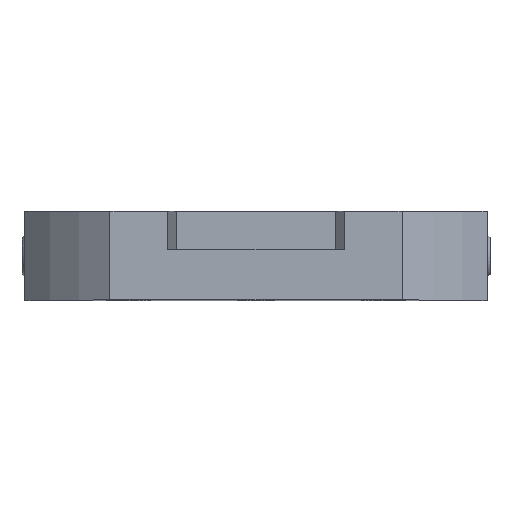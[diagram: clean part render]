
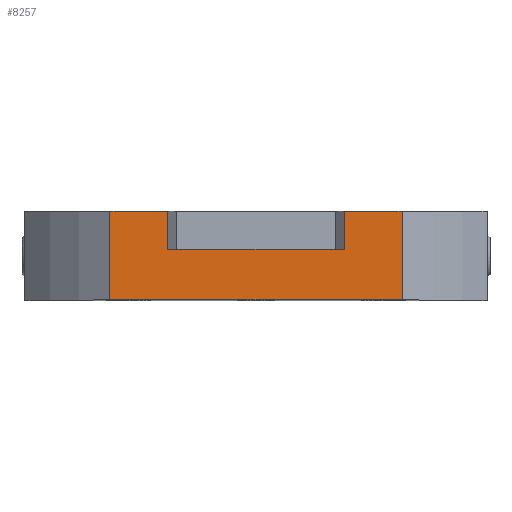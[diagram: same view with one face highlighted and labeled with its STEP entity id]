
A CAD part, top view. The second image highlights one B-rep face of the part: STEP entity #8257.
In plain terms, the highlighted planar face has unit normal (0, 0, 1).
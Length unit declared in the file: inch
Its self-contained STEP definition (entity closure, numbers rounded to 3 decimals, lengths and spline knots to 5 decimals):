
#192 = EDGE_CURVE ( 'NONE', #2064, #3970, #211, .T. ) ;
#211 = LINE ( 'NONE', #3749, #2601 ) ;
#256 = LINE ( 'NONE', #5990, #4621 ) ;
#586 = DIRECTION ( 'NONE',  ( 1., 0., 0. ) ) ;
#744 = DIRECTION ( 'NONE',  ( 0., 1., 0. ) ) ;
#911 = EDGE_CURVE ( 'NONE', #7000, #4141, #6100, .T. ) ;
#987 = DIRECTION ( 'NONE',  ( -1., 0., 0. ) ) ;
#1025 = CARTESIAN_POINT ( 'NONE',  ( 1.94115, 1.1811, 3.4252 ) ) ;
#1028 = VECTOR ( 'NONE', #744, 39.37008 ) ;
#1041 = ORIENTED_EDGE ( 'NONE', *, *, #5614, .T. ) ;
#1072 = DIRECTION ( 'NONE',  ( 0., 1., 0. ) ) ;
#1246 = ORIENTED_EDGE ( 'NONE', *, *, #3369, .F. ) ;
#1557 = EDGE_CURVE ( 'NONE', #3970, #1792, #9152, .T. ) ;
#1792 = VERTEX_POINT ( 'NONE', #7929 ) ;
#1795 = DIRECTION ( 'NONE',  ( 0., 0., -1. ) ) ;
#2064 = VERTEX_POINT ( 'NONE', #4847 ) ;
#2300 = DIRECTION ( 'NONE',  ( 0., -1., 0. ) ) ;
#2488 = ORIENTED_EDGE ( 'NONE', *, *, #5934, .T. ) ;
#2601 = VECTOR ( 'NONE', #6620, 39.37008 ) ;
#2819 = CARTESIAN_POINT ( 'NONE',  ( -1.94115, 1.1811, 3.4252 ) ) ;
#2996 = CARTESIAN_POINT ( 'NONE',  ( -3.07087, 1.1811, 3.4252 ) ) ;
#3032 = CARTESIAN_POINT ( 'NONE',  ( -1.175, 1.1811, 3.4252 ) ) ;
#3221 = EDGE_CURVE ( 'NONE', #8314, #7685, #6370, .T. ) ;
#3369 = EDGE_CURVE ( 'NONE', #1792, #4141, #4865, .T. ) ;
#3501 = CARTESIAN_POINT ( 'NONE',  ( 1.175, 0.6711, 3.4252 ) ) ;
#3611 = AXIS2_PLACEMENT_3D ( 'NONE', #7437, #1795, #987 ) ;
#3689 = CARTESIAN_POINT ( 'NONE',  ( -1.94115, 0., 3.4252 ) ) ;
#3744 = ORIENTED_EDGE ( 'NONE', *, *, #6010, .F. ) ;
#3749 = CARTESIAN_POINT ( 'NONE',  ( -1.175, 0.6711, 3.4252 ) ) ;
#3970 = VERTEX_POINT ( 'NONE', #8475 ) ;
#4141 = VERTEX_POINT ( 'NONE', #6865 ) ;
#4149 = ORIENTED_EDGE ( 'NONE', *, *, #911, .T. ) ;
#4228 = VECTOR ( 'NONE', #8447, 39.37008 ) ;
#4588 = DIRECTION ( 'NONE',  ( 1., 0., 0. ) ) ;
#4621 = VECTOR ( 'NONE', #4588, 39.37008 ) ;
#4847 = CARTESIAN_POINT ( 'NONE',  ( -1.175, 0.6711, 3.4252 ) ) ;
#4865 = LINE ( 'NONE', #2996, #7937 ) ;
#5053 = ORIENTED_EDGE ( 'NONE', *, *, #192, .F. ) ;
#5467 = CARTESIAN_POINT ( 'NONE',  ( -3.07087, 1.1811, 3.4252 ) ) ;
#5614 = EDGE_CURVE ( 'NONE', #2064, #8077, #8701, .T. ) ;
#5934 = EDGE_CURVE ( 'NONE', #7685, #7000, #256, .T. ) ;
#5990 = CARTESIAN_POINT ( 'NONE',  ( -3.07087, 0., 3.4252 ) ) ;
#6010 = EDGE_CURVE ( 'NONE', #8314, #8077, #7748, .T. ) ;
#6060 = FACE_OUTER_BOUND ( 'NONE', #8669, .T. ) ;
#6100 = LINE ( 'NONE', #1025, #6507 ) ;
#6370 = LINE ( 'NONE', #7753, #7631 ) ;
#6507 = VECTOR ( 'NONE', #1072, 39.37008 ) ;
#6620 = DIRECTION ( 'NONE',  ( 1., 0., 0. ) ) ;
#6865 = CARTESIAN_POINT ( 'NONE',  ( 1.94115, 1.1811, 3.4252 ) ) ;
#7000 = VERTEX_POINT ( 'NONE', #8199 ) ;
#7437 = CARTESIAN_POINT ( 'NONE',  ( -3.07087, 1.1811, 3.4252 ) ) ;
#7531 = PLANE ( 'NONE',  #3611 ) ;
#7625 = VECTOR ( 'NONE', #8455, 39.37008 ) ;
#7631 = VECTOR ( 'NONE', #2300, 39.37008 ) ;
#7685 = VERTEX_POINT ( 'NONE', #3689 ) ;
#7748 = LINE ( 'NONE', #5467, #7625 ) ;
#7753 = CARTESIAN_POINT ( 'NONE',  ( -1.94115, 1.1811, 3.4252 ) ) ;
#7929 = CARTESIAN_POINT ( 'NONE',  ( 1.175, 1.1811, 3.4252 ) ) ;
#7937 = VECTOR ( 'NONE', #586, 39.37008 ) ;
#7995 = CARTESIAN_POINT ( 'NONE',  ( -1.175, 0.6711, 3.4252 ) ) ;
#8077 = VERTEX_POINT ( 'NONE', #3032 ) ;
#8199 = CARTESIAN_POINT ( 'NONE',  ( 1.94115, 0., 3.4252 ) ) ;
#8257 = ADVANCED_FACE ( 'NONE', ( #6060 ), #7531, .F. ) ;
#8267 = ORIENTED_EDGE ( 'NONE', *, *, #3221, .T. ) ;
#8314 = VERTEX_POINT ( 'NONE', #2819 ) ;
#8447 = DIRECTION ( 'NONE',  ( 0., 1., 0. ) ) ;
#8455 = DIRECTION ( 'NONE',  ( 1., 0., 0. ) ) ;
#8475 = CARTESIAN_POINT ( 'NONE',  ( 1.175, 0.6711, 3.4252 ) ) ;
#8669 = EDGE_LOOP ( 'NONE', ( #5053, #1041, #3744, #8267, #2488, #4149, #1246, #9275 ) ) ;
#8701 = LINE ( 'NONE', #7995, #1028 ) ;
#9152 = LINE ( 'NONE', #3501, #4228 ) ;
#9275 = ORIENTED_EDGE ( 'NONE', *, *, #1557, .F. ) ;
